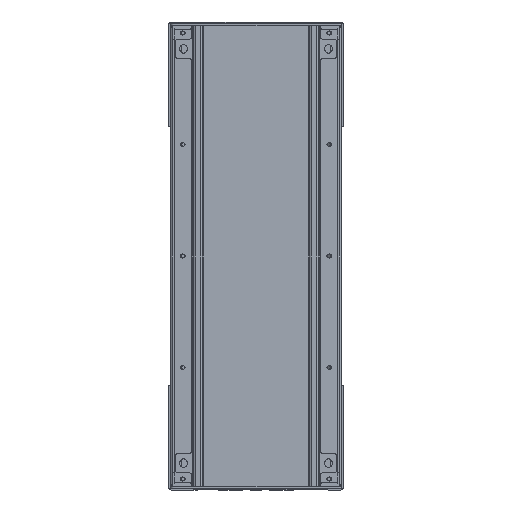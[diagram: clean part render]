
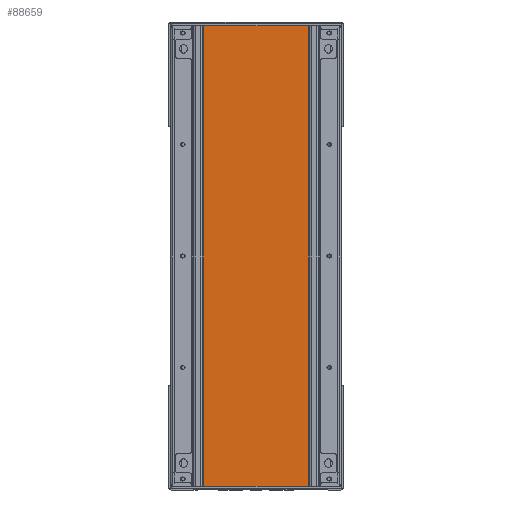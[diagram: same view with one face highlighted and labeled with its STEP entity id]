
A CAD part, front view. The second image highlights one B-rep face of the part: STEP entity #88659.
In plain terms, the highlighted planar face has unit normal (0, -1, 0).
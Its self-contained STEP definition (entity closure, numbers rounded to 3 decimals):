
#7857 = VERTEX_POINT ( 'NONE', #94898 ) ;
#10833 = CARTESIAN_POINT ( 'NONE',  ( 150., 0., 0. ) ) ;
#12938 = VECTOR ( 'NONE', #118399, 1000. ) ;
#16226 = VECTOR ( 'NONE', #60355, 1000. ) ;
#18501 = DIRECTION ( 'NONE',  ( 1., 0., 0. ) ) ;
#19613 = CARTESIAN_POINT ( 'NONE',  ( 32., 0., 508. ) ) ;
#24422 = CARTESIAN_POINT ( 'NONE',  ( 34., 0., 0. ) ) ;
#26031 = VERTEX_POINT ( 'NONE', #108890 ) ;
#26893 = DIRECTION ( 'NONE',  ( -1., 0., 0. ) ) ;
#28528 = VECTOR ( 'NONE', #26893, 1000. ) ;
#32098 = LINE ( 'NONE', #146853, #16226 ) ;
#32319 = DIRECTION ( 'NONE',  ( 0., -1., 0. ) ) ;
#35507 = ORIENTED_EDGE ( 'NONE', *, *, #114274, .T. ) ;
#36198 = AXIS2_PLACEMENT_3D ( 'NONE', #19613, #32319, #18501 ) ;
#38507 = CARTESIAN_POINT ( 'NONE',  ( 32., 0., 0. ) ) ;
#42365 = CARTESIAN_POINT ( 'NONE',  ( 34., 0., 508. ) ) ;
#42517 = LINE ( 'NONE', #42365, #12938 ) ;
#48889 = ORIENTED_EDGE ( 'NONE', *, *, #139063, .F. ) ;
#51246 = VERTEX_POINT ( 'NONE', #24422 ) ;
#55875 = VECTOR ( 'NONE', #63334, 1000. ) ;
#59748 = ORIENTED_EDGE ( 'NONE', *, *, #85206, .F. ) ;
#60355 = DIRECTION ( 'NONE',  ( 0., 0., -1. ) ) ;
#63334 = DIRECTION ( 'NONE',  ( -1., 0., 0. ) ) ;
#71390 = PLANE ( 'NONE',  #36198 ) ;
#77287 = EDGE_LOOP ( 'NONE', ( #48889, #124107, #35507, #59748 ) ) ;
#81278 = FACE_OUTER_BOUND ( 'NONE', #77287, .T. ) ;
#85206 = EDGE_CURVE ( 'NONE', #51246, #7857, #42517, .T. ) ;
#88659 = ADVANCED_FACE ( 'NONE', ( #81278 ), #71390, .T. ) ;
#94898 = CARTESIAN_POINT ( 'NONE',  ( 34., 0., 508. ) ) ;
#95504 = LINE ( 'NONE', #38507, #28528 ) ;
#108890 = CARTESIAN_POINT ( 'NONE',  ( 150., 0., 508. ) ) ;
#114274 = EDGE_CURVE ( 'NONE', #26031, #7857, #130787, .T. ) ;
#118399 = DIRECTION ( 'NONE',  ( 0., 0., 1. ) ) ;
#124107 = ORIENTED_EDGE ( 'NONE', *, *, #140726, .F. ) ;
#130787 = LINE ( 'NONE', #138829, #55875 ) ;
#138829 = CARTESIAN_POINT ( 'NONE',  ( 32., 0., 508. ) ) ;
#139063 = EDGE_CURVE ( 'NONE', #161264, #51246, #95504, .T. ) ;
#140726 = EDGE_CURVE ( 'NONE', #26031, #161264, #32098, .T. ) ;
#146853 = CARTESIAN_POINT ( 'NONE',  ( 150., 0., 508. ) ) ;
#161264 = VERTEX_POINT ( 'NONE', #10833 ) ;
